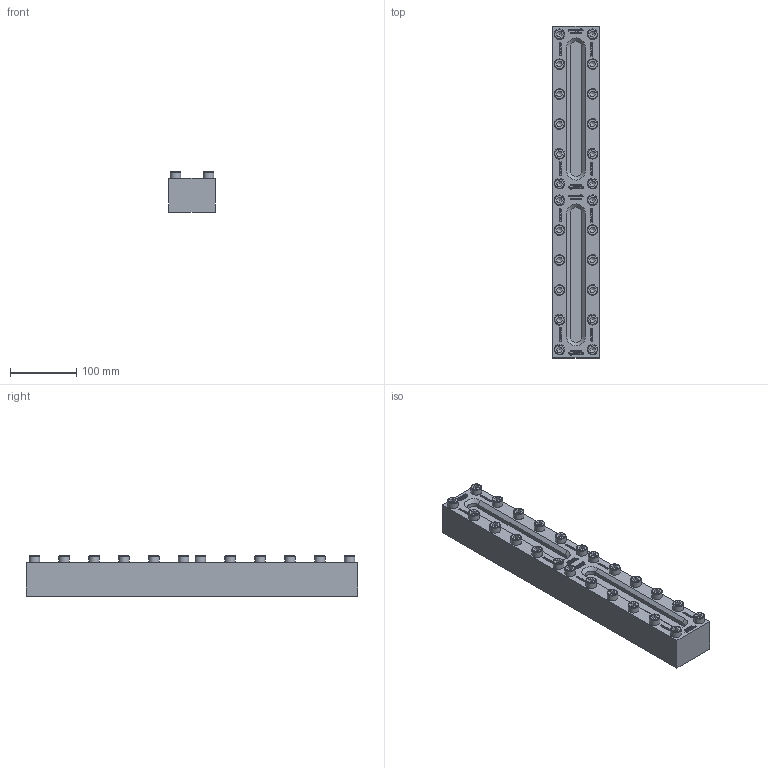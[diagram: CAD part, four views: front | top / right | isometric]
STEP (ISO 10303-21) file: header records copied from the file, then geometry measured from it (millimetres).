
FILE_DESCRIPTION(/* description */ (''),/* implementation_level */ '2;1');
FILE_NAME(/* name */ 'W:\Konstruktion_ACI\330\_Zeichnungen\STEP\ACI-330-500-16.stp',/* time_stamp */ '2022-03-01T17:17:25+01:00',/* author */ ('koslowksi'),/* organization */ (''),/* preprocessor_version */ 'ST-DEVELOPER v16.1',/* originating_system */ 'Autodesk Inventor 2016',/* authorisation */ '');
FILE_SCHEMA (('AUTOMOTIVE_DESIGN { 1 0 10303 214 3 1 1 }'));
Products named in the file (1): ACI-330-500-16.stp
Bounding box: 70 x 500 x 60.9 mm (x, y, z)
Volume: 1626150.2 mm3; surface area: 163249.5 mm2
Topology: 1 solids, 1 shells, 2486 faces, 6736 edges, 4480 vertices
Faces by surface type: plane 1766, bspline 636, cylinder 32, cone 28, torus 24
Full cylindrical faces by diameter (mm): 16 x24
Entity records: 81956 total; most frequent: CARTESIAN_POINT 22091, ORIENTED_EDGE 13232, DIRECTION 8994, EDGE_CURVE 6616, LINE 5108, VECTOR 5108, VERTEX_POINT 4432, EDGE_LOOP 2786
